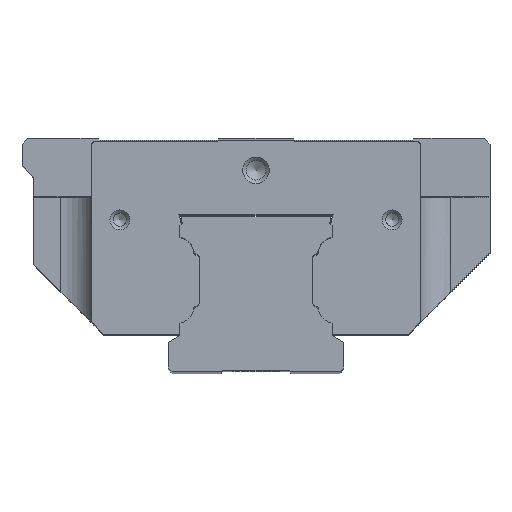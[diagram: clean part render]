
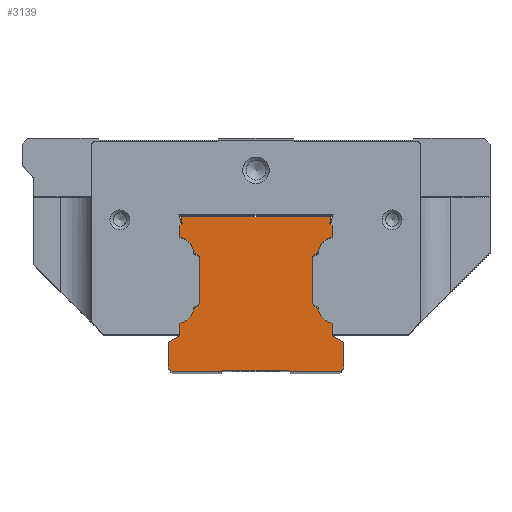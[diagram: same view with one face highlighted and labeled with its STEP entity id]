
A CAD part, top view. The second image highlights one B-rep face of the part: STEP entity #3139.
In plain terms, the highlighted planar face has unit normal (0, 0, 1).
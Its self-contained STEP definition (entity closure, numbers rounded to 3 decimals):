
#83=LINE('',#5612,#403);
#86=LINE('',#5618,#406);
#89=LINE('',#5624,#409);
#93=LINE('',#5633,#413);
#97=LINE('',#5642,#417);
#101=LINE('',#5654,#421);
#104=LINE('',#5660,#424);
#107=LINE('',#5666,#427);
#111=LINE('',#5678,#431);
#114=LINE('',#5684,#434);
#117=LINE('',#5690,#437);
#120=LINE('',#5696,#440);
#124=LINE('',#5703,#444);
#126=LINE('',#5708,#446);
#129=LINE('',#5714,#449);
#134=LINE('',#5729,#454);
#137=LINE('',#5735,#457);
#140=LINE('',#5741,#460);
#142=LINE('',#5744,#462);
#143=LINE('',#5745,#463);
#144=LINE('',#5748,#464);
#145=LINE('',#5750,#465);
#146=LINE('',#5752,#466);
#147=LINE('',#5754,#467);
#148=LINE('',#5756,#468);
#149=LINE('',#5758,#469);
#403=VECTOR('',#4704,1000.);
#406=VECTOR('',#4709,1000.);
#409=VECTOR('',#4714,1000.);
#413=VECTOR('',#4720,1000.);
#417=VECTOR('',#4726,1000.);
#421=VECTOR('',#4738,1000.);
#424=VECTOR('',#4743,1000.);
#427=VECTOR('',#4748,1000.);
#431=VECTOR('',#4760,1000.);
#434=VECTOR('',#4765,1000.);
#437=VECTOR('',#4770,1000.);
#440=VECTOR('',#4775,1000.);
#444=VECTOR('',#4781,1000.);
#446=VECTOR('',#4785,1000.);
#449=VECTOR('',#4790,1000.);
#454=VECTOR('',#4803,1000.);
#457=VECTOR('',#4808,1000.);
#460=VECTOR('',#4813,1000.);
#462=VECTOR('',#4817,1000.);
#463=VECTOR('',#4818,1000.);
#464=VECTOR('',#4821,1000.);
#465=VECTOR('',#4822,1000.);
#466=VECTOR('',#4823,1000.);
#467=VECTOR('',#4824,1000.);
#468=VECTOR('',#4825,1000.);
#469=VECTOR('',#4826,1000.);
#742=PLANE('',#4416);
#938=ORIENTED_EDGE('',*,*,#1698,.F.);
#939=ORIENTED_EDGE('',*,*,#1695,.F.);
#940=ORIENTED_EDGE('',*,*,#1760,.T.);
#941=ORIENTED_EDGE('',*,*,#1701,.F.);
#942=ORIENTED_EDGE('',*,*,#1705,.T.);
#943=ORIENTED_EDGE('',*,*,#1709,.F.);
#944=ORIENTED_EDGE('',*,*,#1730,.F.);
#945=ORIENTED_EDGE('',*,*,#1724,.T.);
#946=ORIENTED_EDGE('',*,*,#1721,.F.);
#947=ORIENTED_EDGE('',*,*,#1718,.F.);
#948=ORIENTED_EDGE('',*,*,#1715,.F.);
#949=ORIENTED_EDGE('',*,*,#1713,.T.);
#950=ORIENTED_EDGE('',*,*,#1727,.F.);
#951=ORIENTED_EDGE('',*,*,#1733,.F.);
#952=ORIENTED_EDGE('',*,*,#1736,.F.);
#953=ORIENTED_EDGE('',*,*,#1740,.T.);
#954=ORIENTED_EDGE('',*,*,#1742,.F.);
#955=ORIENTED_EDGE('',*,*,#1745,.F.);
#956=ORIENTED_EDGE('',*,*,#1761,.T.);
#957=ORIENTED_EDGE('',*,*,#1750,.T.);
#958=ORIENTED_EDGE('',*,*,#1752,.F.);
#959=ORIENTED_EDGE('',*,*,#1755,.F.);
#960=ORIENTED_EDGE('',*,*,#1758,.F.);
#961=ORIENTED_EDGE('',*,*,#1762,.T.);
#962=ORIENTED_EDGE('',*,*,#1763,.T.);
#963=ORIENTED_EDGE('',*,*,#1764,.F.);
#964=ORIENTED_EDGE('',*,*,#1765,.T.);
#965=ORIENTED_EDGE('',*,*,#1766,.F.);
#966=ORIENTED_EDGE('',*,*,#1767,.T.);
#967=ORIENTED_EDGE('',*,*,#1768,.F.);
#1695=EDGE_CURVE('',#2119,#2120,#83,.T.);
#1698=EDGE_CURVE('',#2120,#2122,#86,.T.);
#1701=EDGE_CURVE('',#2124,#2125,#89,.T.);
#1705=EDGE_CURVE('',#2124,#2128,#93,.T.);
#1709=EDGE_CURVE('',#2130,#2128,#97,.T.);
#1713=EDGE_CURVE('',#2135,#2134,#2433,.T.);
#1715=EDGE_CURVE('',#2135,#2136,#101,.T.);
#1718=EDGE_CURVE('',#2136,#2138,#104,.T.);
#1721=EDGE_CURVE('',#2138,#2140,#107,.T.);
#1724=EDGE_CURVE('',#2142,#2140,#2434,.T.);
#1727=EDGE_CURVE('',#2144,#2134,#111,.T.);
#1730=EDGE_CURVE('',#2142,#2130,#114,.T.);
#1733=EDGE_CURVE('',#2146,#2144,#117,.T.);
#1736=EDGE_CURVE('',#2149,#2146,#120,.T.);
#1740=EDGE_CURVE('',#2149,#2151,#124,.T.);
#1742=EDGE_CURVE('',#2152,#2151,#126,.T.);
#1745=EDGE_CURVE('',#2155,#2152,#129,.T.);
#1750=EDGE_CURVE('',#2157,#2159,#2437,.T.);
#1752=EDGE_CURVE('',#2160,#2159,#134,.T.);
#1755=EDGE_CURVE('',#2162,#2160,#137,.T.);
#1758=EDGE_CURVE('',#2165,#2162,#140,.T.);
#1760=EDGE_CURVE('',#2119,#2125,#142,.T.);
#1761=EDGE_CURVE('',#2155,#2157,#143,.T.);
#1762=EDGE_CURVE('',#2165,#2166,#2438,.T.);
#1763=EDGE_CURVE('',#2166,#2167,#144,.T.);
#1764=EDGE_CURVE('',#2168,#2167,#145,.T.);
#1765=EDGE_CURVE('',#2168,#2169,#146,.T.);
#1766=EDGE_CURVE('',#2170,#2169,#147,.T.);
#1767=EDGE_CURVE('',#2170,#2171,#148,.T.);
#1768=EDGE_CURVE('',#2122,#2171,#149,.T.);
#2119=VERTEX_POINT('',#5611);
#2120=VERTEX_POINT('',#5613);
#2122=VERTEX_POINT('',#5619);
#2124=VERTEX_POINT('',#5625);
#2125=VERTEX_POINT('',#5626);
#2128=VERTEX_POINT('',#5634);
#2130=VERTEX_POINT('',#5640);
#2134=VERTEX_POINT('',#5649);
#2135=VERTEX_POINT('',#5651);
#2136=VERTEX_POINT('',#5655);
#2138=VERTEX_POINT('',#5661);
#2140=VERTEX_POINT('',#5667);
#2142=VERTEX_POINT('',#5673);
#2144=VERTEX_POINT('',#5679);
#2146=VERTEX_POINT('',#5688);
#2149=VERTEX_POINT('',#5695);
#2151=VERTEX_POINT('',#5702);
#2152=VERTEX_POINT('',#5706);
#2155=VERTEX_POINT('',#5713);
#2157=VERTEX_POINT('',#5719);
#2159=VERTEX_POINT('',#5723);
#2160=VERTEX_POINT('',#5727);
#2162=VERTEX_POINT('',#5733);
#2165=VERTEX_POINT('',#5740);
#2166=VERTEX_POINT('',#5747);
#2167=VERTEX_POINT('',#5749);
#2168=VERTEX_POINT('',#5751);
#2169=VERTEX_POINT('',#5753);
#2170=VERTEX_POINT('',#5755);
#2171=VERTEX_POINT('',#5757);
#2433=CIRCLE('',#4396,4.08);
#2434=CIRCLE('',#4401,4.08);
#2437=CIRCLE('',#4412,4.08);
#2438=CIRCLE('',#4417,4.08);
#2561=EDGE_LOOP('',(#938,#939,#940,#941,#942,#943,#944,#945,#946,#947,#948,
#949,#950,#951,#952,#953,#954,#955,#956,#957,#958,#959,#960,#961,#962,#963,
#964,#965,#966,#967));
#2829=FACE_BOUND('',#2561,.T.);
#3139=ADVANCED_FACE('',(#2829),#742,.T.);
#4396=AXIS2_PLACEMENT_3D('',#5650,#4733,#4734);
#4401=AXIS2_PLACEMENT_3D('',#5672,#4753,#4754);
#4412=AXIS2_PLACEMENT_3D('',#5724,#4798,#4799);
#4416=AXIS2_PLACEMENT_3D('',#5743,#4815,#4816);
#4417=AXIS2_PLACEMENT_3D('',#5746,#4819,#4820);
#4704=DIRECTION('',(-0.707,0.707,0.));
#4709=DIRECTION('',(-1.,0.,0.));
#4714=DIRECTION('',(-0.707,-0.707,0.));
#4720=DIRECTION('',(0.,1.,0.));
#4726=DIRECTION('',(0.866,-0.5,0.));
#4733=DIRECTION('',(0.,0.,-1.));
#4734=DIRECTION('',(-0.988,0.155,0.));
#4738=DIRECTION('',(-0.707,-0.707,0.));
#4743=DIRECTION('',(0.,-1.,0.));
#4748=DIRECTION('',(0.707,-0.707,0.));
#4753=DIRECTION('',(0.,0.,-1.));
#4754=DIRECTION('',(-0.136,-0.991,0.));
#4760=DIRECTION('',(0.,-1.,0.));
#4765=DIRECTION('',(0.,-1.,0.));
#4770=DIRECTION('',(0.707,-0.707,0.));
#4775=DIRECTION('',(-0.259,-0.966,0.));
#4781=DIRECTION('',(-1.,0.,0.));
#4785=DIRECTION('',(-0.259,0.966,0.));
#4790=DIRECTION('',(0.707,0.707,0.));
#4798=DIRECTION('',(0.,0.,-1.));
#4799=DIRECTION('',(0.136,0.991,0.));
#4803=DIRECTION('',(-0.707,0.707,0.));
#4808=DIRECTION('',(0.,1.,0.));
#4813=DIRECTION('',(0.707,0.707,0.));
#4815=DIRECTION('',(0.,0.,1.));
#4816=DIRECTION('',(1.,0.,0.));
#4817=DIRECTION('',(1.,0.,0.));
#4818=DIRECTION('',(0.,-1.,0.));
#4819=DIRECTION('',(0.,0.,-1.));
#4820=DIRECTION('',(0.988,-0.155,0.));
#4821=DIRECTION('',(0.,-1.,0.));
#4822=DIRECTION('',(0.866,0.5,0.));
#4823=DIRECTION('',(0.,-1.,0.));
#4824=DIRECTION('',(-0.707,0.707,0.));
#4825=DIRECTION('',(1.,0.,0.));
#4826=DIRECTION('',(-0.707,-0.707,0.));
#5611=CARTESIAN_POINT('',(8.9,-23.5,118.593));
#5612=CARTESIAN_POINT('',(8.9,-23.5,118.593));
#5613=CARTESIAN_POINT('',(8.5,-23.1,118.593));
#5618=CARTESIAN_POINT('',(8.5,-23.1,118.593));
#5619=CARTESIAN_POINT('',(-8.5,-23.1,118.593));
#5624=CARTESIAN_POINT('',(22.5,-22.5,118.593));
#5625=CARTESIAN_POINT('',(22.5,-22.5,118.593));
#5626=CARTESIAN_POINT('',(21.5,-23.5,118.593));
#5633=CARTESIAN_POINT('',(22.5,-22.5,118.593));
#5634=CARTESIAN_POINT('',(22.5,-15.932,118.593));
#5640=CARTESIAN_POINT('',(19.5,-14.2,118.593));
#5642=CARTESIAN_POINT('',(19.5,-14.2,118.593));
#5649=CARTESIAN_POINT('',(19.5,10.986,118.593));
#5650=CARTESIAN_POINT('',(20.056,6.944,118.593));
#5651=CARTESIAN_POINT('',(16.025,7.575,118.593));
#5654=CARTESIAN_POINT('',(16.025,7.575,118.593));
#5655=CARTESIAN_POINT('',(14.5,6.05,118.593));
#5660=CARTESIAN_POINT('',(14.5,6.05,118.593));
#5661=CARTESIAN_POINT('',(14.5,-6.05,118.593));
#5666=CARTESIAN_POINT('',(14.5,-6.05,118.593));
#5667=CARTESIAN_POINT('',(16.025,-7.575,118.593));
#5672=CARTESIAN_POINT('',(20.056,-6.944,118.593));
#5673=CARTESIAN_POINT('',(19.5,-10.986,118.593));
#5678=CARTESIAN_POINT('',(19.5,14.,118.593));
#5679=CARTESIAN_POINT('',(19.5,14.,118.593));
#5684=CARTESIAN_POINT('',(19.5,-10.986,118.593));
#5688=CARTESIAN_POINT('',(18.85,14.65,118.593));
#5690=CARTESIAN_POINT('',(18.85,14.65,118.593));
#5695=CARTESIAN_POINT('',(19.306,16.35,118.593));
#5696=CARTESIAN_POINT('',(19.306,16.35,118.593));
#5702=CARTESIAN_POINT('',(-19.306,16.35,118.593));
#5703=CARTESIAN_POINT('',(19.306,16.35,118.593));
#5706=CARTESIAN_POINT('',(-18.85,14.65,118.593));
#5708=CARTESIAN_POINT('',(-18.85,14.65,118.593));
#5713=CARTESIAN_POINT('',(-19.5,14.,118.593));
#5714=CARTESIAN_POINT('',(-19.5,14.,118.593));
#5719=CARTESIAN_POINT('',(-19.5,10.986,118.593));
#5723=CARTESIAN_POINT('',(-16.025,7.575,118.593));
#5724=CARTESIAN_POINT('',(-20.056,6.944,118.593));
#5727=CARTESIAN_POINT('',(-14.5,6.05,118.593));
#5729=CARTESIAN_POINT('',(-14.5,6.05,118.593));
#5733=CARTESIAN_POINT('',(-14.5,-6.05,118.593));
#5735=CARTESIAN_POINT('',(-14.5,-6.05,118.593));
#5740=CARTESIAN_POINT('',(-16.025,-7.575,118.593));
#5741=CARTESIAN_POINT('',(-16.025,-7.575,118.593));
#5743=CARTESIAN_POINT('',(0.,0.,118.593));
#5744=CARTESIAN_POINT('',(8.9,-23.5,118.593));
#5745=CARTESIAN_POINT('',(-19.5,14.,118.593));
#5746=CARTESIAN_POINT('',(-20.056,-6.944,118.593));
#5747=CARTESIAN_POINT('',(-19.5,-10.986,118.593));
#5748=CARTESIAN_POINT('',(-19.5,-10.986,118.593));
#5749=CARTESIAN_POINT('',(-19.5,-14.2,118.593));
#5750=CARTESIAN_POINT('',(-22.5,-15.932,118.593));
#5751=CARTESIAN_POINT('',(-22.5,-15.932,118.593));
#5752=CARTESIAN_POINT('',(-22.5,-15.932,118.593));
#5753=CARTESIAN_POINT('',(-22.5,-22.5,118.593));
#5754=CARTESIAN_POINT('',(-21.5,-23.5,118.593));
#5755=CARTESIAN_POINT('',(-21.5,-23.5,118.593));
#5756=CARTESIAN_POINT('',(-21.5,-23.5,118.593));
#5757=CARTESIAN_POINT('',(-8.9,-23.5,118.593));
#5758=CARTESIAN_POINT('',(-8.5,-23.1,118.593));
